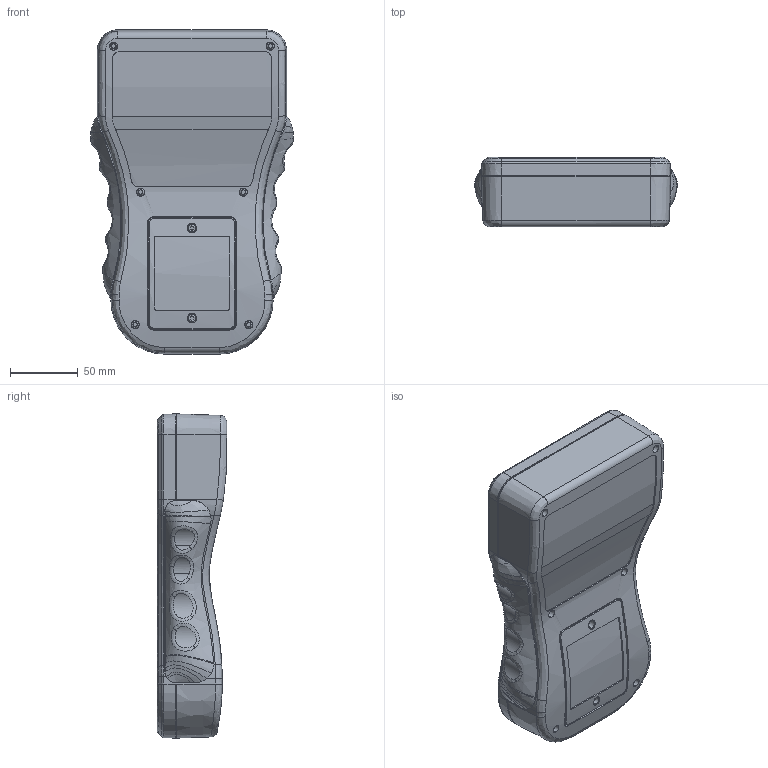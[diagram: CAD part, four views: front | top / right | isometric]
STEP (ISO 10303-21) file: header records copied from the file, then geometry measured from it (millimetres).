
FILE_DESCRIPTION (( 'STEP AP203' ), '1' );
FILE_NAME ('t-case-l_asm.STEP', '2009-10-13T21:01:59', ( 'Chris' ), ( '' ), 'SwSTEP 2.0', 'SolidWorks 2007', '' );
FILE_SCHEMA (( 'CONFIG_CONTROL_DESIGN' ));
Products named in the file (28): 2-9V-BOX; 2-9V_1; 2-9V_2; BATTERY-THIN-2; BATTERY-THIN-2_1; LCD-BRACKET; LCD; T-CASE-L_BATTERY-DOOR; T-CASE-L_BOTTOM; TOP-AND-TFT-35PA; t-case-l_asm; 1-9V; 1-9V_BOX; 2-9V_3; 2-9V; 2AA-BOX; 4-AA; 4XAA-BOX; BATTERY-THIN; BATTERY-THIN_1; BATTERY-THIN_2; BATTERY_2A; AND-TFT-35PA-PCB; BOTTOM-PCB; LCD-BRACKET_1; PCB; MAIN-PCB; RUBBER
Assembly tree (27 placements, depth 3):
  t-case-l_asm
    T-CASE-L_BOTTOM
    MAIN-PCB
    TOP-AND-TFT-35PA
    RUBBER
    2AA-BOX
    LCD-BRACKET
      LCD-BRACKET_1
      LCD
      PCB
    AND-TFT-35PA-PCB
    2-9V
      2-9V_1
      2-9V-BOX
      2-9V_2
    T-CASE-L_BATTERY-DOOR
    1-9V
      1-9V_BOX
      2-9V_3
    4-AA
      BATTERY-THIN_1
      4XAA-BOX
      BATTERY_2A
      BATTERY-THIN-2_1
      BATTERY-THIN
      BATTERY-THIN_2
      BATTERY-THIN-2
    BOTTOM-PCB
Bounding box: 149.83 x 51.4 x 239.8 mm (x, y, z)
Volume: 575468.9 mm3; surface area: 464240.3 mm2
Topology: 25 solids, 27 shells, 3316 faces, 9090 edges, 5897 vertices
Faces by surface type: plane 1744, cylinder 967, bspline 465, cone 140
Entity records: 134521 total; most frequent: CARTESIAN_POINT 50703, ORIENTED_EDGE 18160, DIRECTION 15091, EDGE_CURVE 9086, VERTEX_POINT 5897, VECTOR 5535, LINE 5535, AXIS2_PLACEMENT_3D 4778
